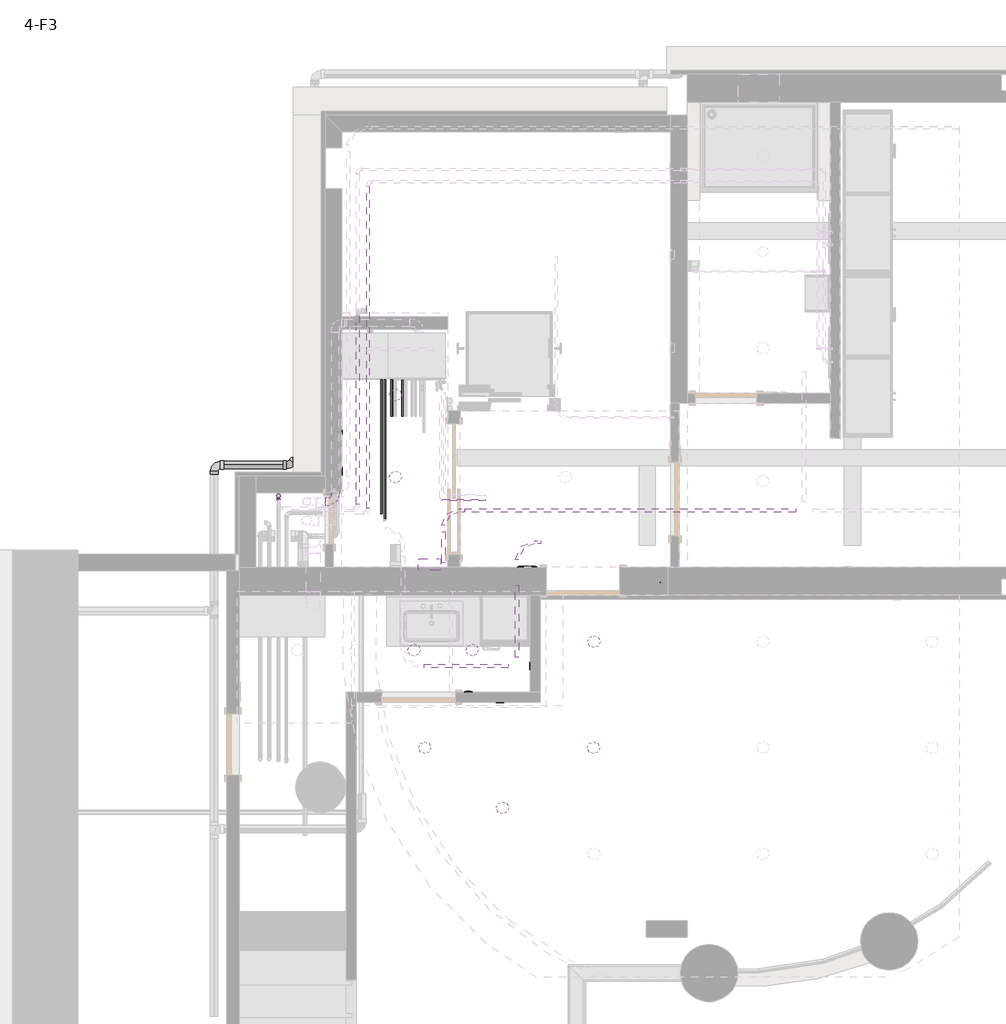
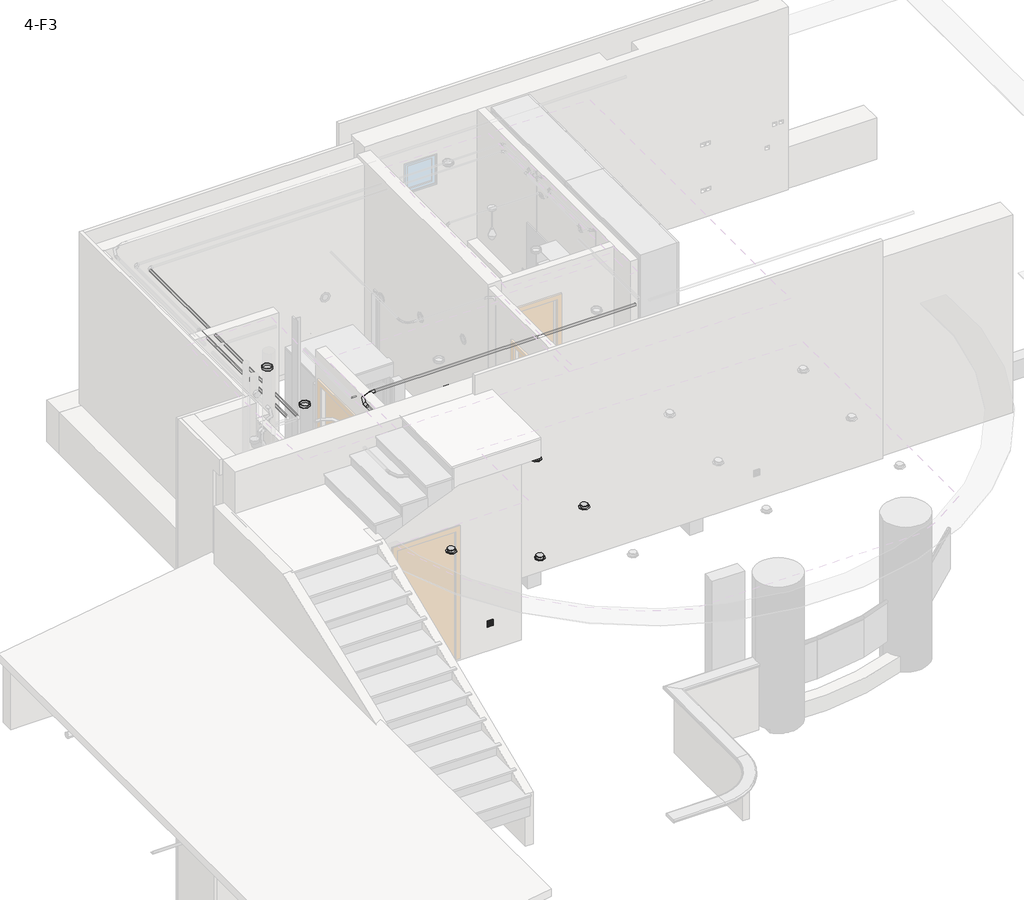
# One storey, part 7 of 11: 21 pipe segments, 19 pipe fittings, 8 light fixtures, 5 proxies, 5 switching devices, 4 cable carrier segments, 2 cable carrier fittings.
"""IFC4 building model written with IfcOpenShell, lengths in millimetres."""

from ifc_helpers import new_model, si_unit, point, frame, frame_2d, origin, place, context, project, spatial, circle_curve, trimmed, segment, composite_curve, outline, extrude, transform, mapped, element, save
from components import distribution_board_24m_2_rows_275x370x140_6ba21ac3, wall_mounted_socket_ups_wall_mounted_socket_ups_4524048d, m_conduit_elbow_aluminum_standard_76e275a1, m_conduit_elbow_steel_standard_79cfaf55, m_downlight_recessed_can_152mm_incandescent_120v_1ee42939, m_recessed_lamp_round_led_e6f06c98, m_recessed_lamp_round_led_ae0475c0, m_bend_pvc_sch_40_dwv_standard_4b7acc6f, m_bend_pvc_sch_40_dwv_standard_a4b99d37, m_bend_pvc_sch_40_dwv_standard_738aab8b, m_bend_pvc_sch_40_dwv_standard_be9000f5, m_elbow_welded_generic_standard_d2a14586, m_elbow_welded_generic_standard_c3fc6815, m_tee_reducing_sanitary_pvc_sch_40_dwv_standard_12be355b, m_tee_reducing_sanitary_pvc_sch_40_dwv_standard_fa4f56c4, m_tee_reducing_sanitary_pvc_sch_40_dwv_standard_152067bf, switching_device_8f59fbb7, switching_device_ab05ab5c

model = new_model("IFC4")

# Units and contexts
model_context = context("Model", 3, world=origin())
ifc_project = project(units=[si_unit("LENGTHUNIT", "METRE", prefix="MILLI")], contexts=[model_context])

# Site, building, storey
site = spatial("IfcSite", under=ifc_project)
building = spatial("IfcBuilding", under=site)
storey = spatial("IfcBuildingStorey", under=building, Name="4-F3", Elevation=9900.0)

# Proxies
placement = place(None, origin())
distribution_board_24m_2_rows_275x370x140_shape = distribution_board_24m_2_rows_275x370x140_6ba21ac3(model_context)
element("IfcBuildingElementProxy", 1, Name="Distribution Board : 24M 2 rows 275x370x140", ObjectType="Distribution Board : 24M 2 rows 275x370x140", at=placement, inside=storey, context=model_context, shape_type="MappedRepresentation", body=[
    mapped(distribution_board_24m_2_rows_275x370x140_shape, transform((-3780.0, 3136.4863231, 11150.0), x_axis=(-1.0, 0.0, 0.0), y_axis=(0.0, -1.0, 0.0), z_axis=(0.0, 0.0, 1.0))),
])
wall_mounted_socket_ups_wall_mounted_socket_ups_shape = wall_mounted_socket_ups_wall_mounted_socket_ups_4524048d(model_context)
element("IfcBuildingElementProxy", 2, Name="WALL MOUNTED SOCKET : WALL MOUNTED SOCKET", ObjectType="WALL MOUNTED SOCKET : WALL MOUNTED SOCKET", at=placement, inside=storey, context=model_context, shape_type="MappedRepresentation", body=[
    mapped(wall_mounted_socket_ups_wall_mounted_socket_ups_shape, transform((-2917.6151583, 1520.6486583, 10350.0), x_axis=(1.0, 0.0, 0.0), y_axis=(0.0, 0.0, 1.0), z_axis=(0.0, -1.0, 0.0))),
])
element("IfcBuildingElementProxy", 3, Name="WALL MOUNTED SOCKET : WALL MOUNTED SOCKET", ObjectType="WALL MOUNTED SOCKET : WALL MOUNTED SOCKET", at=placement, inside=storey, context=model_context, shape_type="MappedRepresentation", body=[
    mapped(wall_mounted_socket_ups_wall_mounted_socket_ups_shape, transform((-2997.6151583, 2926.4863231, 10350.0), x_axis=(-1.0, 0.0, 0.0), y_axis=(0.0, 0.0, -1.0), z_axis=(0.0, -1.0, 0.0))),
])
element("IfcBuildingElementProxy", 4, Name="WALL MOUNTED SOCKET : WALL MOUNTED SOCKET", ObjectType="WALL MOUNTED SOCKET : WALL MOUNTED SOCKET", at=placement, inside=storey, context=model_context, shape_type="MappedRepresentation", body=[
    mapped(wall_mounted_socket_ups_wall_mounted_socket_ups_shape, transform((-2547.4765921, 1960.1275048, 10350.0), x_axis=(0.0, -1.0, 0.0), y_axis=(0.0, 0.0, 1.0), z_axis=(-1.0, 0.0, 0.0))),
])
element("IfcBuildingElementProxy", 5, Name="WALL MOUNTED SOCKET UPS : WALL MOUNTED SOCKET UPS", ObjectType="WALL MOUNTED SOCKET UPS : WALL MOUNTED SOCKET UPS", at=placement, inside=storey, context=model_context, shape_type="MappedRepresentation", body=[
    mapped(wall_mounted_socket_ups_wall_mounted_socket_ups_shape, transform((-4857.4765921, 4344.4560655, 11050.0), x_axis=(0.0, 1.0, 0.0), y_axis=(0.0, 0.0, 1.0), z_axis=(1.0, 0.0, 0.0))),
])

# Cable carrier fittings
m_conduit_elbow_aluminum_standard_shape = m_conduit_elbow_aluminum_standard_76e275a1(model_context)
element("IfcCableCarrierFitting", 6, ObjectType="M_Conduit Elbow - Aluminum : Standard", at=placement, inside=storey, context=model_context, shape_type="MappedRepresentation", body=[
    mapped(m_conduit_elbow_aluminum_standard_shape, transform((-3611.3882331, 3866.4863231, 12880.825), x_axis=(-1.0, 0.0, 0.0), y_axis=(0.0, -1.0, 0.0), z_axis=(0.0, 0.0, 1.0))),
])
m_conduit_elbow_steel_standard_shape = m_conduit_elbow_steel_standard_79cfaf55(model_context)
element("IfcCableCarrierFitting", 7, ObjectType="M_Conduit Elbow - Steel : Standard", at=placement, inside=storey, context=model_context, shape_type="MappedRepresentation", body=[
    mapped(m_conduit_elbow_steel_standard_shape, transform((-2711.47251, 3474.2560655, 12880.825), x_axis=(-1.0, 0.0, 0.0), y_axis=(0.0, -1.0, 0.0), z_axis=(0.0, 0.0, 1.0))),
])

# Cable carrier segments
element("IfcCableCarrierSegment", 8, ObjectType="Power", at=placement, inside=storey, context=model_context, shape_type="SweptSolid", body=[
    extrude(outline(composite_curve([segment(trimmed(circle_curve(frame_2d((3866.4863231, 12880.825)), 21.08), [point((3845.4063231, 12880.825))], [point((3866.4863231, 12901.905))], False, "CARTESIAN"), True, "CONTINUOUS"), segment(trimmed(circle_curve(frame_2d((3866.4863231, 12880.825)), 21.08), [point((3866.4863231, 12901.905))], [point((3887.5663231, 12880.825))], False, "CARTESIAN"), True, "CONTINUOUS"), segment(trimmed(circle_curve(frame_2d((3866.4863231, 12880.825)), 21.08), [point((3887.5663231, 12880.825))], [point((3866.4863231, 12859.745))], False, "CARTESIAN"), True, "CONTINUOUS"), segment(trimmed(circle_curve(frame_2d((3866.4863231, 12880.825)), 21.08), [point((3866.4863231, 12859.745))], [point((3845.4063231, 12880.825))], False, "CARTESIAN"), True, "CONTINUOUS")], self_intersect=False)), frame((-3351.0382331, 0.0, 0.0), z_axis=(1.0, 0.0, 0.0), x_axis=(0.0, 1.0, 0.0)), (0.0, 0.0, 1.0), 4048.0547036),
])
element("IfcCableCarrierSegment", 9, ObjectType="Power", at=placement, inside=storey, context=model_context, shape_type="SweptSolid", body=[
    extrude(outline(composite_curve([segment(trimmed(circle_curve(frame_2d((12880.825, -3611.3882331)), 21.08), [point((12880.825, -3590.3082331))], [point((12901.905, -3611.3882331))], False, "CARTESIAN"), True, "CONTINUOUS"), segment(trimmed(circle_curve(frame_2d((12880.825, -3611.3882331)), 21.08), [point((12901.905, -3611.3882331))], [point((12880.825, -3632.4682331))], False, "CARTESIAN"), True, "CONTINUOUS"), segment(trimmed(circle_curve(frame_2d((12880.825, -3611.3882331)), 21.08), [point((12880.825, -3632.4682331))], [point((12859.745, -3611.3882331))], False, "CARTESIAN"), True, "CONTINUOUS"), segment(trimmed(circle_curve(frame_2d((12880.825, -3611.3882331)), 21.08), [point((12859.745, -3611.3882331))], [point((12880.825, -3590.3082331))], False, "CARTESIAN"), True, "CONTINUOUS")], self_intersect=False)), frame((0.0, 3226.4863231, 0.0), z_axis=(0.0, 1.0, 0.0), x_axis=(0.0, 0.0, 1.0)), (0.0, 0.0, 1.0), 379.65),
])
element("IfcCableCarrierSegment", 10, ObjectType="Power", at=placement, inside=storey, context=model_context, shape_type="SweptSolid", body=[
    extrude(outline(composite_curve([segment(trimmed(circle_curve(frame_2d((12850.825, -2711.47251)), 21.08), [point((12850.825, -2690.39251))], [point((12871.905, -2711.47251))], False, "CARTESIAN"), True, "CONTINUOUS"), segment(trimmed(circle_curve(frame_2d((12850.825, -2711.47251)), 21.08), [point((12871.905, -2711.47251))], [point((12850.825, -2732.55251))], False, "CARTESIAN"), True, "CONTINUOUS"), segment(trimmed(circle_curve(frame_2d((12850.825, -2711.47251)), 21.08), [point((12850.825, -2732.55251))], [point((12829.745, -2711.47251))], False, "CARTESIAN"), True, "CONTINUOUS"), segment(trimmed(circle_curve(frame_2d((12850.825, -2711.47251)), 21.08), [point((12829.745, -2711.47251))], [point((12850.825, -2690.39251))], False, "CARTESIAN"), True, "CONTINUOUS")], self_intersect=False)), frame((0.0, 2069.3898607, 0.0), z_axis=(0.0, 1.0, 0.0), x_axis=(0.0, 0.0, 1.0)), (0.0, 0.0, 1.0), 880.0),
])
element("IfcCableCarrierSegment", 11, ObjectType="Power", at=placement, inside=storey, context=model_context, shape_type="SweptSolid", body=[
    extrude(outline(composite_curve([segment(trimmed(circle_curve(frame_2d((1964.3898607, 12850.825)), 21.08), [point((1943.3098607, 12850.825))], [point((1964.3898607, 12871.905))], False, "CARTESIAN"), True, "CONTINUOUS"), segment(trimmed(circle_curve(frame_2d((1964.3898607, 12850.825)), 21.08), [point((1964.3898607, 12871.905))], [point((1985.4698607, 12850.825))], False, "CARTESIAN"), True, "CONTINUOUS"), segment(trimmed(circle_curve(frame_2d((1964.3898607, 12850.825)), 21.08), [point((1985.4698607, 12850.825))], [point((1964.3898607, 12829.745))], False, "CARTESIAN"), True, "CONTINUOUS"), segment(trimmed(circle_curve(frame_2d((1964.3898607, 12850.825)), 21.08), [point((1964.3898607, 12829.745))], [point((1943.3098607, 12850.825))], False, "CARTESIAN"), True, "CONTINUOUS")], self_intersect=False)), frame((-3847.3265921, 0.0, 0.0), z_axis=(1.0, 0.0, 0.0), x_axis=(0.0, 1.0, 0.0)), (0.0, 0.0, 1.0), 1030.8540821),
])

# Light fixtures
m_downlight_recessed_can_152mm_incandescent_120v_shape = m_downlight_recessed_can_152mm_incandescent_120v_1ee42939(model_context)
element("IfcLightFixture", 12, ObjectType="M_Downlight - Recessed Can : 203mm Incandescent - 277V", at=placement, inside=storey, context=model_context, shape_type="MappedRepresentation", body=[
    mapped(m_downlight_recessed_can_152mm_incandescent_120v_shape, transform((-4197.4765921, 5278.4661513, 10185.4), x_axis=(-1.0, 0.0, 0.0), y_axis=(0.0, -1.0, 0.0), z_axis=(0.0, 0.0, 1.0))),
])
element("IfcLightFixture", 13, ObjectType="M_Downlight - Recessed Can : 203mm Incandescent - 277V", at=placement, inside=storey, context=model_context, shape_type="MappedRepresentation", body=[
    mapped(m_downlight_recessed_can_152mm_incandescent_120v_shape, transform((-4197.4765921, 4272.4762372, 10185.4), x_axis=(-1.0, 0.0, 0.0), y_axis=(0.0, -1.0, 0.0), z_axis=(0.0, 0.0, 1.0))),
])
m_recessed_lamp_round_led_shape = m_recessed_lamp_round_led_e6f06c98(model_context)
element("IfcLightFixture", 14, ObjectType="M_Recessed Lamp - Round - LED : 100mm Trimless Downlight", at=placement, inside=storey, context=model_context, shape_type="MappedRepresentation", body=[
    mapped(m_recessed_lamp_round_led_shape, transform((-1775.2696246, 961.8997367, 12200.0), x_axis=(1.0, 0.0, 0.0), y_axis=(0.0, -1.0, 0.0), z_axis=(0.0, 0.0, -1.0))),
])
element("IfcLightFixture", 15, ObjectType="M_Recessed Lamp - Round - LED : 100mm Trimless Downlight", at=placement, inside=storey, context=model_context, shape_type="MappedRepresentation", body=[
    mapped(m_recessed_lamp_round_led_shape, transform((-3971.4765921, 2156.4863231, 12200.0), x_axis=(1.0, 0.0, 0.0), y_axis=(0.0, -1.0, 0.0), z_axis=(0.0, 0.0, -1.0))),
])
element("IfcLightFixture", 16, ObjectType="M_Recessed Lamp - Round - LED : 100mm Trimless Downlight", at=placement, inside=storey, context=model_context, shape_type="MappedRepresentation", body=[
    mapped(m_recessed_lamp_round_led_shape, transform((-3259.4765921, 2156.4863231, 12200.0), x_axis=(1.0, 0.0, 0.0), y_axis=(0.0, -1.0, 0.0), z_axis=(0.0, 0.0, -1.0))),
])
m_recessed_lamp_round_led_2_shape = m_recessed_lamp_round_led_ae0475c0(model_context)
element("IfcLightFixture", 17, ObjectType="M_Recessed Lamp - Round - LED : 100mm Trimless Downlight", at=placement, inside=storey, context=model_context, shape_type="MappedRepresentation", body=[
    mapped(m_recessed_lamp_round_led_2_shape, transform((-1770.4696246, 2259.6205595, 12200.0), x_axis=(1.0, 0.0, 0.0), y_axis=(0.0, -1.0, 0.0), z_axis=(0.0, 0.0, -1.0))),
])
element("IfcLightFixture", 18, ObjectType="M_Recessed Lamp - Round - LED : 100mm Trimless Downlight", at=placement, inside=storey, context=model_context, shape_type="MappedRepresentation", body=[
    mapped(m_recessed_lamp_round_led_2_shape, transform((-3840.0, 961.8997367, 12200.0), x_axis=(-1.0, 0.0, 0.0), y_axis=(0.0, 1.0, 0.0), z_axis=(0.0, 0.0, -1.0))),
])
element("IfcLightFixture", 19, ObjectType="M_Recessed Lamp - Round - LED : 100mm Trimless Downlight", at=placement, inside=storey, context=model_context, shape_type="MappedRepresentation", body=[
    mapped(m_recessed_lamp_round_led_2_shape, transform((-2887.6151583, 226.6020243, 12200.0), x_axis=(-1.0, 0.0, 0.0), y_axis=(0.0, 1.0, 0.0), z_axis=(0.0, 0.0, -1.0))),
])

# Pipe fittings
m_bend_pvc_sch_40_dwv_standard_shape = m_bend_pvc_sch_40_dwv_standard_4b7acc6f(model_context)
element("IfcPipeFitting", 20, ObjectType="M_Bend - PVC - Sch 40 - DWV : Standard", at=placement, inside=storey, context=model_context, shape_type="MappedRepresentation", body=[
    mapped(m_bend_pvc_sch_40_dwv_standard_shape, transform((-5487.4770894, 4422.177075, 9903.4238623), x_axis=(0.9999999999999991, 0.0, -4.2202675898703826e-08), y_axis=(0.0, 0.999999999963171, -8.582424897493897e-06), z_axis=(4.220267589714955e-08, 8.582424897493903e-06, 0.9999999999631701))),
])
m_bend_pvc_sch_40_dwv_standard_2_shape = m_bend_pvc_sch_40_dwv_standard_a4b99d37(model_context)
element("IfcPipeFitting", 21, ObjectType="M_Bend - PVC - Sch 40 - DWV : Standard", at=placement, inside=storey, context=model_context, shape_type="MappedRepresentation", body=[
    mapped(m_bend_pvc_sch_40_dwv_standard_2_shape, transform((-6417.4765921, 4422.177075, 9903.4238967), x_axis=(-1.0, 0.0, 0.0), y_axis=(0.0, -0.9999999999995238, -9.759312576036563e-07), z_axis=(0.0, -9.759312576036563e-07, 0.9999999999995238))),
])
element("IfcPipeFitting", 22, ObjectType="M_Bend - PVC - Sch 40 - DWV : Standard", at=placement, inside=storey, context=model_context, shape_type="MappedRepresentation", body=[
    mapped(m_bend_pvc_sch_40_dwv_standard_2_shape, transform((-4935.0, 3974.4560655, 11700.0), x_axis=(1.0, 0.0, 0.0), y_axis=(0.0, 1.0, 0.0), z_axis=(0.0, 0.0, 1.0))),
])
m_bend_pvc_sch_40_dwv_standard_3_shape = m_bend_pvc_sch_40_dwv_standard_738aab8b(model_context)
element("IfcPipeFitting", 23, ObjectType="M_Bend - PVC - Sch 40 - DWV : Standard", at=placement, inside=storey, context=model_context, shape_type="MappedRepresentation", body=[
    mapped(m_bend_pvc_sch_40_dwv_standard_3_shape, transform((-4917.4765921, 4824.4560655, 10651.5), x_axis=(-1.0, 0.0, 0.0), y_axis=(0.0, 0.0, -1.0), z_axis=(0.0, -1.0, 0.0))),
])
element("IfcPipeFitting", 24, ObjectType="M_Bend - PVC - Sch 40 - DWV : Standard", at=placement, inside=storey, context=model_context, shape_type="MappedRepresentation", body=[
    mapped(m_bend_pvc_sch_40_dwv_standard_3_shape, transform((-4917.4765921, 4158.4005405, 10350.0), x_axis=(0.0, -1.0, 0.0), y_axis=(0.0, 0.0, -1.0), z_axis=(1.0, 0.0, 0.0))),
])
element("IfcPipeFitting", 25, ObjectType="M_Bend - PVC - Sch 40 - DWV : Standard", at=placement, inside=storey, context=model_context, shape_type="MappedRepresentation", body=[
    mapped(m_bend_pvc_sch_40_dwv_standard_3_shape, transform((-4917.4765921, 4158.4005405, 9850.0), x_axis=(0.0, 0.0, -1.0), y_axis=(0.0, -1.0, 0.0), z_axis=(-1.0, 0.0, 0.0))),
])
element("IfcPipeFitting", 26, ObjectType="M_Bend - PVC - Sch 40 - DWV : Standard", at=placement, inside=storey, context=model_context, shape_type="MappedRepresentation", body=[
    mapped(m_bend_pvc_sch_40_dwv_standard_3_shape, transform((-3757.4765921, 3096.4863231, 10569.1), x_axis=(0.0, 1.0, 0.0), y_axis=(-1.0, 0.0, 0.0), z_axis=(0.0, 0.0, 1.0))),
])
m_bend_pvc_sch_40_dwv_standard_4_shape = m_bend_pvc_sch_40_dwv_standard_be9000f5(model_context)
element("IfcPipeFitting", 27, ObjectType="M_Bend - PVC - Sch 40 - DWV : Standard", at=placement, inside=storey, context=model_context, shape_type="MappedRepresentation", body=[
    mapped(m_bend_pvc_sch_40_dwv_standard_4_shape, transform((-3682.4765921, 2976.4863231, 10350.0), x_axis=(0.0, 0.0, -1.0), y_axis=(0.0, -1.0, 0.0), z_axis=(-1.0, 0.0, 0.0))),
])
element("IfcPipeFitting", 28, ObjectType="M_Bend - PVC - Sch 40 - DWV : Standard", at=placement, inside=storey, context=model_context, shape_type="MappedRepresentation", body=[
    mapped(m_bend_pvc_sch_40_dwv_standard_4_shape, transform((-3832.9770075, 2976.4863231, 10450.0), x_axis=(0.0, 0.0, 1.0), y_axis=(-1.0, 0.0, 0.0), z_axis=(0.0, -1.0, 0.0))),
])
element("IfcPipeFitting", 29, ObjectType="M_Bend - PVC - Sch 40 - DWV : Standard", at=placement, inside=storey, context=model_context, shape_type="MappedRepresentation", body=[
    mapped(m_bend_pvc_sch_40_dwv_standard_4_shape, transform((-3682.4765921, 2976.4863231, 10550.0), x_axis=(0.0, 0.0, 1.0), y_axis=(-1.0, 0.0, 0.0), z_axis=(0.0, -1.0, 0.0))),
])
element("IfcPipeFitting", 30, ObjectType="M_Bend - PVC - Sch 40 - DWV : Standard", at=placement, inside=storey, context=model_context, shape_type="MappedRepresentation", body=[
    mapped(m_bend_pvc_sch_40_dwv_standard_4_shape, transform((-3832.9770075, 2976.4863231, 10350.0), x_axis=(0.0, 0.0, -1.0), y_axis=(0.0, -1.0, 0.0), z_axis=(-1.0, 0.0, 0.0))),
])
m_elbow_welded_generic_standard_shape = m_elbow_welded_generic_standard_d2a14586(model_context)
element("IfcPipeFitting", 31, ObjectType="M_Elbow - Welded - Generic : Standard", at=placement, inside=storey, context=model_context, shape_type="MappedRepresentation", body=[
    mapped(m_elbow_welded_generic_standard_shape, transform((-4243.7873274, 5675.4611712, 9540.0000233), x_axis=(-1.0, 0.0, 0.0), y_axis=(0.0, -0.9999999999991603, -1.2959462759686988e-06), z_axis=(0.0, -1.2959462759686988e-06, 0.9999999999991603))),
])
element("IfcPipeFitting", 32, ObjectType="M_Elbow - Welded - Generic : Standard", at=placement, inside=storey, context=model_context, shape_type="MappedRepresentation", body=[
    mapped(m_elbow_welded_generic_standard_shape, transform((-4113.7873274, 5615.4611712, 9540.0000247), x_axis=(-1.0, 0.0, 0.0), y_axis=(0.0, -0.9999999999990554, -1.3744884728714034e-06), z_axis=(0.0, -1.3744884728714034e-06, 0.9999999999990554))),
])
m_elbow_welded_generic_standard_2_shape = m_elbow_welded_generic_standard_c3fc6815(model_context)
element("IfcPipeFitting", 33, ObjectType="M_Elbow - Welded - Generic : Standard", at=placement, inside=storey, context=model_context, shape_type="MappedRepresentation", body=[
    mapped(m_elbow_welded_generic_standard_2_shape, transform((-4324.0305462, 5735.4611712, 9500.0000738), x_axis=(-1.0, 0.0, 0.0), y_axis=(0.0, -0.9999999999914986, -4.123465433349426e-06), z_axis=(0.0, -4.123465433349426e-06, 0.9999999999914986))),
])
element("IfcPipeFitting", 34, ObjectType="M_Elbow - Welded - Generic : Standard", at=placement, inside=storey, context=model_context, shape_type="MappedRepresentation", body=[
    mapped(m_elbow_welded_generic_standard_2_shape, transform((-4200.8446087, 5675.4611712, 9500.000112), x_axis=(-1.0, 0.0, 0.0), y_axis=(0.0, -0.9999999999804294, -6.256292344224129e-06), z_axis=(0.0, -6.256292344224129e-06, 0.9999999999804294))),
])
m_tee_reducing_sanitary_pvc_sch_40_dwv_standard_shape = m_tee_reducing_sanitary_pvc_sch_40_dwv_standard_12be355b(model_context)
element("IfcPipeFitting", 35, ObjectType="M_Tee Reducing Sanitary - PVC - Sch 40 - DWV : Standard", at=placement, inside=storey, context=model_context, shape_type="MappedRepresentation", body=[
    mapped(m_tee_reducing_sanitary_pvc_sch_40_dwv_standard_shape, transform((-5629.7712314, 4046.0055479, 11400.0), x_axis=(0.0, 0.0, 1.0), y_axis=(2.7091882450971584e-05, 0.999999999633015, 0.0), z_axis=(-0.999999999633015, 2.7091882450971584e-05, 0.0))),
])
element("IfcPipeFitting", 36, ObjectType="M_Tee Reducing Sanitary - PVC - Sch 40 - DWV : Standard", at=placement, inside=storey, context=model_context, shape_type="MappedRepresentation", body=[
    mapped(m_tee_reducing_sanitary_pvc_sch_40_dwv_standard_shape, transform((-5629.7654803, 4046.0055479, 9900.0), x_axis=(-1.0161001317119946e-06, 0.0, 0.9999999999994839), y_axis=(8.362855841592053e-06, 0.9999999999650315, 8.497498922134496e-12), z_axis=(-0.9999999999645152, 8.362855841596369e-06, -1.016100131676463e-06))),
])
m_tee_reducing_sanitary_pvc_sch_40_dwv_standard_2_shape = m_tee_reducing_sanitary_pvc_sch_40_dwv_standard_fa4f56c4(model_context)
element("IfcPipeFitting", 37, ObjectType="M_Tee Reducing Sanitary - PVC - Sch 40 - DWV : Standard", at=placement, inside=storey, context=model_context, shape_type="MappedRepresentation", body=[
    mapped(m_tee_reducing_sanitary_pvc_sch_40_dwv_standard_2_shape, transform((-5186.0805492, 4723.5736151, 9903.4212629), x_axis=(0.0, -1.0, 0.0), y_axis=(0.999999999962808, 0.0, -8.624627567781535e-06), z_axis=(8.624627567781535e-06, 0.0, 0.999999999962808))),
])
m_tee_reducing_sanitary_pvc_sch_40_dwv_standard_3_shape = m_tee_reducing_sanitary_pvc_sch_40_dwv_standard_152067bf(model_context)
element("IfcPipeFitting", 38, ObjectType="M_Tee Reducing Sanitary - PVC - Sch 40 - DWV : Standard", at=placement, inside=storey, context=model_context, shape_type="MappedRepresentation", body=[
    mapped(m_tee_reducing_sanitary_pvc_sch_40_dwv_standard_3_shape, transform((-4917.4765921, 4824.4560655, 10350.0), x_axis=(0.0, -1.0, 0.0), y_axis=(0.0, 0.0, -1.0), z_axis=(1.0, 0.0, 0.0))),
])

# Pipe segments
element("IfcPipeSegment", 39, ObjectType="PVC - DWV", at=placement, inside=storey, context=model_context, shape_type="SweptSolid", body=[
    extrude(outline(composite_curve([segment(trimmed(circle_curve(frame_2d((4422.177075, 9903.4238967)), 44.45), [point((4377.727075, 9903.4238967))], [point((4422.177075, 9947.8738967))], False, "CARTESIAN"), True, "CONTINUOUS"), segment(trimmed(circle_curve(frame_2d((4422.177075, 9903.4238967)), 44.45), [point((4422.177075, 9947.8738967))], [point((4466.627075, 9903.4238967))], False, "CARTESIAN"), True, "CONTINUOUS"), segment(trimmed(circle_curve(frame_2d((4422.177075, 9903.4238967)), 44.45), [point((4466.627075, 9903.4238967))], [point((4422.177075, 9858.9738967))], False, "CARTESIAN"), True, "CONTINUOUS"), segment(trimmed(circle_curve(frame_2d((4422.177075, 9903.4238967)), 44.45), [point((4422.177075, 9858.9738967))], [point((4377.727075, 9903.4238967))], False, "CARTESIAN"), True, "CONTINUOUS")], self_intersect=False)), frame((-6301.5763921, 0.0, 0.0), z_axis=(1.0, 0.0, 0.0), x_axis=(0.0, 1.0, 0.0)), (0.0, 0.0, 1.0), 731.5493027),
])
element("IfcPipeSegment", 40, ObjectType="PVC - DWV", at=placement, inside=storey, context=model_context, shape_type="SweptSolid", body=[
    extrude(outline(composite_curve([segment(trimmed(circle_curve(frame_2d((4824.4560655, 10651.5)), 24.13), [point((4848.5860655, 10651.5))], [point((4824.4560655, 10627.37))], False, "CARTESIAN"), True, "CONTINUOUS"), segment(trimmed(circle_curve(frame_2d((4824.4560655, 10651.5)), 24.13), [point((4824.4560655, 10627.37))], [point((4800.3260655, 10651.5))], False, "CARTESIAN"), True, "CONTINUOUS"), segment(trimmed(circle_curve(frame_2d((4824.4560655, 10651.5)), 24.13), [point((4800.3260655, 10651.5))], [point((4824.4560655, 10675.63))], False, "CARTESIAN"), True, "CONTINUOUS"), segment(trimmed(circle_curve(frame_2d((4824.4560655, 10651.5)), 24.13), [point((4824.4560655, 10675.63))], [point((4848.5860655, 10651.5))], False, "CARTESIAN"), True, "CONTINUOUS")], self_intersect=False)), frame((-4855.5767921, 0.0, 0.0), z_axis=(1.0, 0.0, 0.0), x_axis=(0.0, 1.0, 0.0)), (0.0, 0.0, 1.0), 8.1002),
])
element("IfcPipeSegment", 41, ObjectType="PVC - DWV", at=placement, inside=storey, context=model_context, shape_type="SweptSolid", body=[
    extrude(outline(composite_curve([segment(trimmed(circle_curve(frame_2d((-4917.4765921, 4824.4560655)), 24.13), [point((-4893.3465921, 4824.4560655))], [point((-4917.4765921, 4800.3260655))], False, "CARTESIAN"), True, "CONTINUOUS"), segment(trimmed(circle_curve(frame_2d((-4917.4765921, 4824.4560655)), 24.13), [point((-4917.4765921, 4800.3260655))], [point((-4941.6065921, 4824.4560655))], False, "CARTESIAN"), True, "CONTINUOUS"), segment(trimmed(circle_curve(frame_2d((-4917.4765921, 4824.4560655)), 24.13), [point((-4941.6065921, 4824.4560655))], [point((-4917.4765921, 4848.5860655))], False, "CARTESIAN"), True, "CONTINUOUS"), segment(trimmed(circle_curve(frame_2d((-4917.4765921, 4824.4560655)), 24.13), [point((-4917.4765921, 4848.5860655))], [point((-4893.3465921, 4824.4560655))], False, "CARTESIAN"), True, "CONTINUOUS")], self_intersect=False)), frame((0.0, 0.0, 10417.5974563), z_axis=(0.0, 0.0, 1.0), x_axis=(1.0, 0.0, 0.0)), (0.0, 0.0, 1.0), 172.0027438),
])
element("IfcPipeSegment", 42, ObjectType="PVC - DWV", at=placement, inside=storey, context=model_context, shape_type="SweptSolid", body=[
    extrude(outline(composite_curve([segment(trimmed(circle_curve(frame_2d((10569.1, -3757.4765921)), 24.13), [point((10569.1, -3733.3465921))], [point((10593.23, -3757.4765921))], False, "CARTESIAN"), True, "CONTINUOUS"), segment(trimmed(circle_curve(frame_2d((10569.1, -3757.4765921)), 24.13), [point((10593.23, -3757.4765921))], [point((10569.1, -3781.6065921))], False, "CARTESIAN"), True, "CONTINUOUS"), segment(trimmed(circle_curve(frame_2d((10569.1, -3757.4765921)), 24.13), [point((10569.1, -3781.6065921))], [point((10544.97, -3757.4765921))], False, "CARTESIAN"), True, "CONTINUOUS"), segment(trimmed(circle_curve(frame_2d((10569.1, -3757.4765921)), 24.13), [point((10544.97, -3757.4765921))], [point((10569.1, -3733.3465921))], False, "CARTESIAN"), True, "CONTINUOUS")], self_intersect=False)), frame((0.0, 2663.9863231, 0.0), z_axis=(0.0, 1.0, 0.0), x_axis=(0.0, 0.0, 1.0)), (0.0, 0.0, 1.0), 370.6002),
])
element("IfcPipeSegment", 43, ObjectType="PVC - DWV", at=placement, inside=storey, context=model_context, shape_type="SweptSolid", body=[
    extrude(outline(composite_curve([segment(trimmed(circle_curve(frame_2d((12870.0, -4660.1213464)), 16.7005), [point((12870.0, -4676.8218464))], [point((12853.2995, -4660.1213464))], False, "CARTESIAN"), True, "CONTINUOUS"), segment(trimmed(circle_curve(frame_2d((12870.0, -4660.1213464)), 16.7005), [point((12853.2995, -4660.1213464))], [point((12870.0, -4643.4208464))], False, "CARTESIAN"), True, "CONTINUOUS"), segment(trimmed(circle_curve(frame_2d((12870.0, -4660.1213464)), 16.7005), [point((12870.0, -4643.4208464))], [point((12886.7005, -4660.1213464))], False, "CARTESIAN"), True, "CONTINUOUS"), segment(trimmed(circle_curve(frame_2d((12870.0, -4660.1213464)), 16.7005), [point((12886.7005, -4660.1213464))], [point((12870.0, -4676.8218464))], False, "CARTESIAN"), True, "CONTINUOUS")], self_intersect=False)), frame((0.0, 3941.8710463, 0.0), z_axis=(0.0, 1.0, 0.0), x_axis=(0.0, 0.0, 1.0)), (0.0, 0.0, 1.0), 2305.9883336),
])
element("IfcPipeSegment", 44, ObjectType="PVC - DWV", at=placement, inside=storey, context=model_context, shape_type="SweptSolid", body=[
    extrude(outline(composite_curve([segment(trimmed(circle_curve(frame_2d((12870.0, -4532.9770075)), 16.7005), [point((12870.0, -4516.2765075))], [point((12886.7005, -4532.9770075))], False, "CARTESIAN"), True, "CONTINUOUS"), segment(trimmed(circle_curve(frame_2d((12870.0, -4532.9770075)), 16.7005), [point((12886.7005, -4532.9770075))], [point((12870.0, -4549.6775075))], False, "CARTESIAN"), True, "CONTINUOUS"), segment(trimmed(circle_curve(frame_2d((12870.0, -4532.9770075)), 16.7005), [point((12870.0, -4549.6775075))], [point((12853.2995, -4532.9770075))], False, "CARTESIAN"), True, "CONTINUOUS"), segment(trimmed(circle_curve(frame_2d((12870.0, -4532.9770075)), 16.7005), [point((12853.2995, -4532.9770075))], [point((12870.0, -4516.2765075))], False, "CARTESIAN"), True, "CONTINUOUS")], self_intersect=False)), frame((0.0, 3889.100386, 0.0), z_axis=(0.0, 1.0, 0.0), x_axis=(0.0, 0.0, 1.0)), (0.0, 0.0, 1.0), 3944.9476389),
])
element("IfcPipeSegment", 45, ObjectType="PVC - DWV", at=placement, inside=storey, context=model_context, shape_type="SweptSolid", body=[
    extrude(outline(composite_curve([segment(trimmed(circle_curve(frame_2d((-3682.4765921, 2976.4863231)), 13.335), [point((-3669.1415921, 2976.4863231))], [point((-3682.4765921, 2963.1513231))], False, "CARTESIAN"), True, "CONTINUOUS"), segment(trimmed(circle_curve(frame_2d((-3682.4765921, 2976.4863231)), 13.335), [point((-3682.4765921, 2963.1513231))], [point((-3695.8115921, 2976.4863231))], False, "CARTESIAN"), True, "CONTINUOUS"), segment(trimmed(circle_curve(frame_2d((-3682.4765921, 2976.4863231)), 13.335), [point((-3695.8115921, 2976.4863231))], [point((-3682.4765921, 2989.8213231))], False, "CARTESIAN"), True, "CONTINUOUS"), segment(trimmed(circle_curve(frame_2d((-3682.4765921, 2976.4863231)), 13.335), [point((-3682.4765921, 2989.8213231))], [point((-3669.1415921, 2976.4863231))], False, "CARTESIAN"), True, "CONTINUOUS")], self_intersect=False)), frame((0.0, 0.0, 10396.8140625), z_axis=(0.0, 0.0, 1.0), x_axis=(1.0, 0.0, 0.0)), (0.0, 0.0, 1.0), 106.371875),
])
element("IfcPipeSegment", 46, ObjectType="PVC - DWV", at=placement, inside=storey, context=model_context, shape_type="SweptSolid", body=[
    extrude(outline(composite_curve([segment(trimmed(circle_curve(frame_2d((-3832.9770075, 2976.4863231)), 13.335), [point((-3819.6420075, 2976.4863231))], [point((-3832.9770075, 2963.1513231))], False, "CARTESIAN"), True, "CONTINUOUS"), segment(trimmed(circle_curve(frame_2d((-3832.9770075, 2976.4863231)), 13.335), [point((-3832.9770075, 2963.1513231))], [point((-3846.3120075, 2976.4863231))], False, "CARTESIAN"), True, "CONTINUOUS"), segment(trimmed(circle_curve(frame_2d((-3832.9770075, 2976.4863231)), 13.335), [point((-3846.3120075, 2976.4863231))], [point((-3832.9770075, 2989.8213231))], False, "CARTESIAN"), True, "CONTINUOUS"), segment(trimmed(circle_curve(frame_2d((-3832.9770075, 2976.4863231)), 13.335), [point((-3832.9770075, 2989.8213231))], [point((-3819.6420075, 2976.4863231))], False, "CARTESIAN"), True, "CONTINUOUS")], self_intersect=False)), frame((0.0, 0.0, 10396.8140625), z_axis=(0.0, 0.0, 1.0), x_axis=(1.0, 0.0, 0.0)), (0.0, 0.0, 1.0), 6.371875),
])
element("IfcPipeSegment", 47, ObjectType="PVC - DWV", at=placement, inside=storey, context=model_context, shape_type="SweptSolid", body=[
    extrude(outline(composite_curve([segment(trimmed(circle_curve(frame_2d((5735.4611712, 9540.0000553)), 9.525), [point((5744.9861712, 9540.0000553))], [point((5735.4611712, 9530.4750553))], False, "CARTESIAN"), True, "CONTINUOUS"), segment(trimmed(circle_curve(frame_2d((5735.4611712, 9540.0000553)), 9.525), [point((5735.4611712, 9530.4750553))], [point((5725.9361712, 9540.0000553))], False, "CARTESIAN"), True, "CONTINUOUS"), segment(trimmed(circle_curve(frame_2d((5735.4611712, 9540.0000553)), 9.525), [point((5725.9361712, 9540.0000553))], [point((5735.4611712, 9549.5250553))], False, "CARTESIAN"), True, "CONTINUOUS"), segment(trimmed(circle_curve(frame_2d((5735.4611712, 9540.0000553)), 9.525), [point((5735.4611712, 9549.5250553))], [point((5744.9861712, 9540.0000553))], False, "CARTESIAN"), True, "CONTINUOUS")], self_intersect=False)), frame((-4349.0305462, 0.0, 0.0), z_axis=(1.0, 0.0, 0.0), x_axis=(0.0, 1.0, 0.0)), (0.0, 0.0, 1.0), 684.1145625),
])
element("IfcPipeSegment", 48, ObjectType="PVC - DWV", at=placement, inside=storey, context=model_context, shape_type="SweptSolid", body=[
    extrude(outline(composite_curve([segment(trimmed(circle_curve(frame_2d((9540.0, -4366.9732649)), 9.55), [point((9540.0, -4376.5232649))], [point((9530.45, -4366.9732649))], False, "CARTESIAN"), True, "CONTINUOUS"), segment(trimmed(circle_curve(frame_2d((9540.0, -4366.9732649)), 9.55), [point((9530.45, -4366.9732649))], [point((9540.0, -4357.4232649))], False, "CARTESIAN"), True, "CONTINUOUS"), segment(trimmed(circle_curve(frame_2d((9540.0, -4366.9732649)), 9.55), [point((9540.0, -4357.4232649))], [point((9549.55, -4366.9732649))], False, "CARTESIAN"), True, "CONTINUOUS"), segment(trimmed(circle_curve(frame_2d((9540.0, -4366.9732649)), 9.55), [point((9549.55, -4366.9732649))], [point((9540.0, -4376.5232649))], False, "CARTESIAN"), True, "CONTINUOUS")], self_intersect=False)), frame((0.0, 3827.3620165, 0.0), z_axis=(0.0, 1.0, 0.0), x_axis=(0.0, 0.0, 1.0)), (0.0, 0.0, 1.0), 1869.0928422),
])
element("IfcPipeSegment", 49, ObjectType="PVC - DWV", at=placement, inside=storey, context=model_context, shape_type="SweptSolid", body=[
    extrude(outline(composite_curve([segment(trimmed(circle_curve(frame_2d((9540.0, -4243.7873274)), 9.525), [point((9540.0, -4253.3123274))], [point((9530.475, -4243.7873274))], False, "CARTESIAN"), True, "CONTINUOUS"), segment(trimmed(circle_curve(frame_2d((9540.0, -4243.7873274)), 9.525), [point((9530.475, -4243.7873274))], [point((9540.0, -4234.2623274))], False, "CARTESIAN"), True, "CONTINUOUS"), segment(trimmed(circle_curve(frame_2d((9540.0, -4243.7873274)), 9.525), [point((9540.0, -4234.2623274))], [point((9549.525, -4243.7873274))], False, "CARTESIAN"), True, "CONTINUOUS"), segment(trimmed(circle_curve(frame_2d((9540.0, -4243.7873274)), 9.525), [point((9549.525, -4243.7873274))], [point((9540.0, -4253.3123274))], False, "CARTESIAN"), True, "CONTINUOUS")], self_intersect=False)), frame((0.0, 5019.4611712, 0.0), z_axis=(0.0, 1.0, 0.0), x_axis=(0.0, 0.0, 1.0)), (0.0, 0.0, 1.0), 638.0572812),
])
element("IfcPipeSegment", 50, ObjectType="PVC - DWV", at=placement, inside=storey, context=model_context, shape_type="SweptSolid", body=[
    extrude(outline(composite_curve([segment(trimmed(circle_curve(frame_2d((9540.0, -4113.7873274)), 9.525), [point((9540.0, -4123.3123274))], [point((9530.475, -4113.7873274))], False, "CARTESIAN"), True, "CONTINUOUS"), segment(trimmed(circle_curve(frame_2d((9540.0, -4113.7873274)), 9.525), [point((9530.475, -4113.7873274))], [point((9540.0, -4104.2623274))], False, "CARTESIAN"), True, "CONTINUOUS"), segment(trimmed(circle_curve(frame_2d((9540.0, -4113.7873274)), 9.525), [point((9540.0, -4104.2623274))], [point((9549.525, -4113.7873274))], False, "CARTESIAN"), True, "CONTINUOUS"), segment(trimmed(circle_curve(frame_2d((9540.0, -4113.7873274)), 9.525), [point((9549.525, -4113.7873274))], [point((9540.0, -4123.3123274))], False, "CARTESIAN"), True, "CONTINUOUS")], self_intersect=False)), frame((0.0, 5019.4611712, 0.0), z_axis=(0.0, 1.0, 0.0), x_axis=(0.0, 0.0, 1.0)), (0.0, 0.0, 1.0), 578.0572813),
])
element("IfcPipeSegment", 51, ObjectType="PVC - DWV", at=placement, inside=storey, context=model_context, shape_type="SweptSolid", body=[
    extrude(outline(composite_curve([segment(trimmed(circle_curve(frame_2d((9500.0, -4324.0305462)), 9.55), [point((9500.0, -4314.4805462))], [point((9509.55, -4324.0305462))], False, "CARTESIAN"), True, "CONTINUOUS"), segment(trimmed(circle_curve(frame_2d((9500.0, -4324.0305462)), 9.55), [point((9509.55, -4324.0305462))], [point((9500.0, -4333.5805462))], False, "CARTESIAN"), True, "CONTINUOUS"), segment(trimmed(circle_curve(frame_2d((9500.0, -4324.0305462)), 9.55), [point((9500.0, -4333.5805462))], [point((9490.45, -4324.0305462))], False, "CARTESIAN"), True, "CONTINUOUS"), segment(trimmed(circle_curve(frame_2d((9500.0, -4324.0305462)), 9.55), [point((9490.45, -4324.0305462))], [point((9500.0, -4314.4805462))], False, "CARTESIAN"), True, "CONTINUOUS")], self_intersect=False)), frame((0.0, 5717.5521868, 0.0), z_axis=(0.0, 1.0, 0.0), x_axis=(0.0, 0.0, 1.0)), (0.0, 0.0, 1.0), 165.8013509),
])
element("IfcPipeSegment", 52, ObjectType="PVC - DWV", at=placement, inside=storey, context=model_context, shape_type="SweptSolid", body=[
    extrude(outline(composite_curve([segment(trimmed(circle_curve(frame_2d((9500.0, -4200.8446087)), 9.55), [point((9500.0, -4191.2946087))], [point((9509.55, -4200.8446087))], False, "CARTESIAN"), True, "CONTINUOUS"), segment(trimmed(circle_curve(frame_2d((9500.0, -4200.8446087)), 9.55), [point((9509.55, -4200.8446087))], [point((9500.0, -4210.3946087))], False, "CARTESIAN"), True, "CONTINUOUS"), segment(trimmed(circle_curve(frame_2d((9500.0, -4200.8446087)), 9.55), [point((9500.0, -4210.3946087))], [point((9490.45, -4200.8446087))], False, "CARTESIAN"), True, "CONTINUOUS"), segment(trimmed(circle_curve(frame_2d((9500.0, -4200.8446087)), 9.55), [point((9490.45, -4200.8446087))], [point((9500.0, -4191.2946087))], False, "CARTESIAN"), True, "CONTINUOUS")], self_intersect=False)), frame((0.0, 5657.5521868, 0.0), z_axis=(0.0, 1.0, 0.0), x_axis=(0.0, 0.0, 1.0)), (0.0, 0.0, 1.0), 135.8012167),
])
element("IfcPipeSegment", 53, ObjectType="PVC - DWV", at=placement, inside=storey, context=model_context, shape_type="SweptSolid", body=[
    extrude(outline(composite_curve([segment(trimmed(circle_curve(frame_2d((9500.0, -4070.8446087)), 9.55), [point((9500.0, -4061.2946087))], [point((9509.55, -4070.8446087))], False, "CARTESIAN"), True, "CONTINUOUS"), segment(trimmed(circle_curve(frame_2d((9500.0, -4070.8446087)), 9.55), [point((9509.55, -4070.8446087))], [point((9500.0, -4080.3946087))], False, "CARTESIAN"), True, "CONTINUOUS"), segment(trimmed(circle_curve(frame_2d((9500.0, -4070.8446087)), 9.55), [point((9500.0, -4080.3946087))], [point((9490.45, -4070.8446087))], False, "CARTESIAN"), True, "CONTINUOUS"), segment(trimmed(circle_curve(frame_2d((9500.0, -4070.8446087)), 9.55), [point((9490.45, -4070.8446087))], [point((9500.0, -4061.2946087))], False, "CARTESIAN"), True, "CONTINUOUS")], self_intersect=False)), frame((0.0, 5597.5521868, 0.0), z_axis=(0.0, 1.0, 0.0), x_axis=(0.0, 0.0, 1.0)), (0.0, 0.0, 1.0), 135.8012167),
])
element("IfcPipeSegment", 54, ObjectType="PVC - DWV", at=placement, inside=storey, context=model_context, shape_type="SweptSolid", body=[
    extrude(outline(composite_curve([segment(trimmed(circle_curve(frame_2d((9540.0, -4324.0305462)), 9.55), [point((9540.0, -4333.5805462))], [point((9530.45, -4324.0305462))], False, "CARTESIAN"), True, "CONTINUOUS"), segment(trimmed(circle_curve(frame_2d((9540.0, -4324.0305462)), 9.55), [point((9530.45, -4324.0305462))], [point((9540.0, -4314.4805462))], False, "CARTESIAN"), True, "CONTINUOUS"), segment(trimmed(circle_curve(frame_2d((9540.0, -4324.0305462)), 9.55), [point((9540.0, -4314.4805462))], [point((9549.55, -4324.0305462))], False, "CARTESIAN"), True, "CONTINUOUS"), segment(trimmed(circle_curve(frame_2d((9540.0, -4324.0305462)), 9.55), [point((9549.55, -4324.0305462))], [point((9540.0, -4333.5805462))], False, "CARTESIAN"), True, "CONTINUOUS")], self_intersect=False)), frame((0.0, 3763.3705885, 0.0), z_axis=(0.0, 1.0, 0.0), x_axis=(0.0, 0.0, 1.0)), (0.0, 0.0, 1.0), 2044.1992969),
])
element("IfcPipeSegment", 55, ObjectType="PVC - DWV", at=placement, inside=storey, context=model_context, shape_type="SweptSolid", body=[
    extrude(outline(composite_curve([segment(trimmed(circle_curve(frame_2d((0.0, -44.45)), 44.45), [point((-44.45, -44.45))], [point((0.0, 0.0))], False, "CARTESIAN"), True, "CONTINUOUS"), segment(trimmed(circle_curve(frame_2d((0.0, -44.45)), 44.45), [point((0.0, 0.0))], [point((44.45, -44.45))], False, "CARTESIAN"), True, "CONTINUOUS"), segment(trimmed(circle_curve(frame_2d((0.0, -44.45)), 44.45), [point((44.45, -44.45))], [point((0.0, -88.9))], False, "CARTESIAN"), True, "CONTINUOUS"), segment(trimmed(circle_curve(frame_2d((0.0, -44.45)), 44.45), [point((0.0, -88.9))], [point((-44.45, -44.45))], False, "CARTESIAN"), True, "CONTINUOUS")], self_intersect=False)), frame((-5429.1054246, 4480.5487397, 9858.9722353), z_axis=(0.7071067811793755, 0.7071067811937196, 0.0), x_axis=(0.7071067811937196, -0.7071067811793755, 0.0)), (0.0, 0.0, 1.0), 184.2347673),
])
element("IfcPipeSegment", 56, ObjectType="PVC - DWV", at=placement, inside=storey, context=model_context, shape_type="SweptSolid", body=[
    extrude(outline(composite_curve([segment(trimmed(circle_curve(frame_2d((9903.4212629, -5186.0805492)), 44.45), [point((9903.4212629, -5141.6305492))], [point((9947.8712629, -5186.0805492))], False, "CARTESIAN"), True, "CONTINUOUS"), segment(trimmed(circle_curve(frame_2d((9903.4212629, -5186.0805492)), 44.45), [point((9947.8712629, -5186.0805492))], [point((9903.4212629, -5230.5305492))], False, "CARTESIAN"), True, "CONTINUOUS"), segment(trimmed(circle_curve(frame_2d((9903.4212629, -5186.0805492)), 44.45), [point((9903.4212629, -5230.5305492))], [point((9858.9712629, -5186.0805492))], False, "CARTESIAN"), True, "CONTINUOUS"), segment(trimmed(circle_curve(frame_2d((9903.4212629, -5186.0805492)), 44.45), [point((9858.9712629, -5186.0805492))], [point((9903.4212629, -5141.6305492))], False, "CARTESIAN"), True, "CONTINUOUS")], self_intersect=False)), frame((0.0, 4538.0775789, 0.0), z_axis=(0.0, 1.0, 0.0), x_axis=(0.0, 0.0, 1.0)), (0.0, 0.0, 1.0), 26.0417288),
])
element("IfcPipeSegment", 57, ObjectType="PVC - DWV", at=placement, inside=storey, context=model_context, shape_type="SweptSolid", body=[
    extrude(outline(composite_curve([segment(trimmed(circle_curve(frame_2d((10350.0, -4917.4765921)), 24.13), [point((10350.0, -4941.6065921))], [point((10325.87, -4917.4765921))], False, "CARTESIAN"), True, "CONTINUOUS"), segment(trimmed(circle_curve(frame_2d((10350.0, -4917.4765921)), 24.13), [point((10325.87, -4917.4765921))], [point((10350.0, -4893.3465921))], False, "CARTESIAN"), True, "CONTINUOUS"), segment(trimmed(circle_curve(frame_2d((10350.0, -4917.4765921)), 24.13), [point((10350.0, -4893.3465921))], [point((10374.13, -4917.4765921))], False, "CARTESIAN"), True, "CONTINUOUS"), segment(trimmed(circle_curve(frame_2d((10350.0, -4917.4765921)), 24.13), [point((10374.13, -4917.4765921))], [point((10350.0, -4941.6065921))], False, "CARTESIAN"), True, "CONTINUOUS")], self_intersect=False)), frame((0.0, 4220.3003405, 0.0), z_axis=(0.0, 1.0, 0.0), x_axis=(0.0, 0.0, 1.0)), (0.0, 0.0, 1.0), 558.1002),
])
element("IfcPipeSegment", 58, ObjectType="PVC - DWV", at=placement, inside=storey, context=model_context, shape_type="SweptSolid", body=[
    extrude(outline(composite_curve([segment(trimmed(circle_curve(frame_2d((-4917.4765921, 4158.4005405)), 24.13), [point((-4893.3465921, 4158.4005405))], [point((-4917.4765921, 4134.2705405))], False, "CARTESIAN"), True, "CONTINUOUS"), segment(trimmed(circle_curve(frame_2d((-4917.4765921, 4158.4005405)), 24.13), [point((-4917.4765921, 4134.2705405))], [point((-4941.6065921, 4158.4005405))], False, "CARTESIAN"), True, "CONTINUOUS"), segment(trimmed(circle_curve(frame_2d((-4917.4765921, 4158.4005405)), 24.13), [point((-4941.6065921, 4158.4005405))], [point((-4917.4765921, 4182.5305405))], False, "CARTESIAN"), True, "CONTINUOUS"), segment(trimmed(circle_curve(frame_2d((-4917.4765921, 4158.4005405)), 24.13), [point((-4917.4765921, 4182.5305405))], [point((-4893.3465921, 4158.4005405))], False, "CARTESIAN"), True, "CONTINUOUS")], self_intersect=False)), frame((0.0, 0.0, 9911.8998), z_axis=(0.0, 0.0, 1.0), x_axis=(1.0, 0.0, 0.0)), (0.0, 0.0, 1.0), 376.2004),
])
element("IfcPipeSegment", 59, ObjectType="PVC - DWV", at=placement, inside=storey, context=model_context, shape_type="SweptSolid", body=[
    extrude(outline(composite_curve([segment(trimmed(circle_curve(frame_2d((3995.4613499, 12790.0)), 9.55), [point((3985.9113499, 12790.0))], [point((3995.4613499, 12799.55))], False, "CARTESIAN"), True, "CONTINUOUS"), segment(trimmed(circle_curve(frame_2d((3995.4613499, 12790.0)), 9.55), [point((3995.4613499, 12799.55))], [point((4005.0113499, 12790.0))], False, "CARTESIAN"), True, "CONTINUOUS"), segment(trimmed(circle_curve(frame_2d((3995.4613499, 12790.0)), 9.55), [point((4005.0113499, 12790.0))], [point((3995.4613499, 12780.45))], False, "CARTESIAN"), True, "CONTINUOUS"), segment(trimmed(circle_curve(frame_2d((3995.4613499, 12790.0)), 9.55), [point((3995.4613499, 12780.45))], [point((3985.9113499, 12790.0))], False, "CARTESIAN"), True, "CONTINUOUS")], self_intersect=False)), frame((-3627.4210043, 0.0, 0.0), z_axis=(1.0, 0.0, 0.0), x_axis=(0.0, 1.0, 0.0)), (0.0, 0.0, 1.0), 530.0337344),
])

# Switching devices
switching_device_shape = switching_device_8f59fbb7(model_context)
element("IfcSwitchingDevice", 60, ObjectType="TWO WAY ONE GANG LIGHTING SWICH : TWO WAY ONE GANG LIGHTING SWICH", at=placement, inside=storey, context=model_context, shape_type="MappedRepresentation", body=[
    mapped(switching_device_shape, transform((-1002.6765921, 2980.6486583, 11050.0), x_axis=(-1.0, 0.0, 0.0), y_axis=(0.0, 0.0, 1.0), z_axis=(0.0, 1.0, 0.0))),
])
switching_device_2_shape = switching_device_ab05ab5c(model_context)
element("IfcSwitchingDevice", 61, ObjectType="ONE WAY ONE GANG LIGHTING SWICH : ONE WAY ONE GANG LIGHTING SWICH", at=placement, inside=storey, context=model_context, shape_type="MappedRepresentation", body=[
    mapped(switching_device_2_shape, transform((-3307.4765921, 1640.6486583, 11050.0), x_axis=(-1.0, 0.0, 0.0), y_axis=(0.0, 0.0, 1.0), z_axis=(0.0, 1.0, 0.0))),
])
element("IfcSwitchingDevice", 62, ObjectType="ONE WAY ONE GANG LIGHTING SWICH : ONE WAY ONE GANG LIGHTING SWICH", at=placement, inside=storey, context=model_context, shape_type="MappedRepresentation", body=[
    mapped(switching_device_2_shape, transform((-2657.4765921, 3170.6486583, 11050.0), x_axis=(-1.0, 0.0, 0.0), y_axis=(0.0, 0.0, 1.0), z_axis=(0.0, 1.0, 0.0))),
])
element("IfcSwitchingDevice", 63, ObjectType="ONE WAY ONE GANG LIGHTING SWICH : ONE WAY ONE GANG LIGHTING SWICH", at=placement, inside=storey, context=model_context, shape_type="MappedRepresentation", body=[
    mapped(switching_device_2_shape, transform((-2597.6765921, 3170.6486583, 11050.0), x_axis=(-1.0, 0.0, 0.0), y_axis=(0.0, 0.0, 1.0), z_axis=(0.0, 1.0, 0.0))),
])
element("IfcSwitchingDevice", 64, ObjectType="ONE WAY ONE GANG LIGHTING SWICH : ONE WAY ONE GANG LIGHTING SWICH", at=placement, inside=storey, context=model_context, shape_type="MappedRepresentation", body=[
    mapped(switching_device_2_shape, transform((-2517.8765921, 3170.6486583, 11050.0), x_axis=(-1.0, 0.0, 0.0), y_axis=(0.0, 0.0, 1.0), z_axis=(0.0, 1.0, 0.0))),
])

save(model, "model.ifc")
